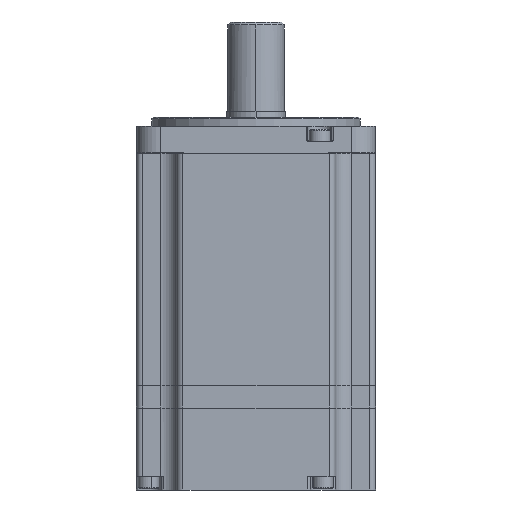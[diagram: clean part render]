
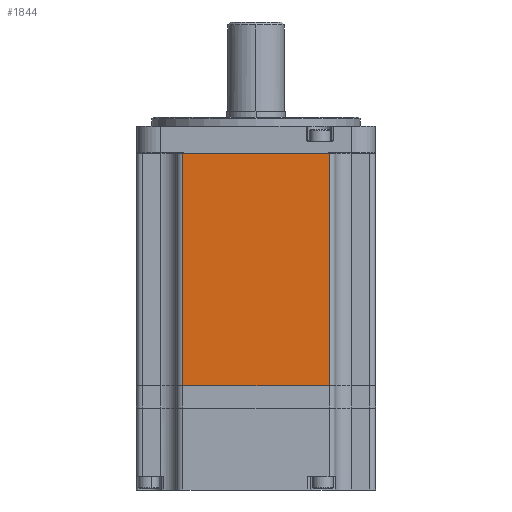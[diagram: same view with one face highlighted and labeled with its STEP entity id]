
A CAD part, front view. The second image highlights one B-rep face of the part: STEP entity #1844.
In plain terms, the highlighted planar face has unit normal (0, -1, 0).
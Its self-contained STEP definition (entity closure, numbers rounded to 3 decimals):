
#580=DIRECTION('',(0.,0.,-1.));
#581=VECTOR('',#580,78.);
#582=CARTESIAN_POINT('',(24.5,-40.1,78.));
#583=LINE('',#582,#581);
#588=DIRECTION('',(-1.,0.,0.));
#589=VECTOR('',#588,49.);
#590=CARTESIAN_POINT('',(24.5,-40.1,0.));
#591=LINE('',#590,#589);
#592=DIRECTION('',(1.,0.,0.));
#593=VECTOR('',#592,49.);
#594=CARTESIAN_POINT('',(-24.5,-40.1,78.));
#595=LINE('',#594,#593);
#596=DIRECTION('',(0.,0.,1.));
#597=VECTOR('',#596,78.);
#598=CARTESIAN_POINT('',(-24.5,-40.1,0.));
#599=LINE('',#598,#597);
#1156=CARTESIAN_POINT('',(-24.5,-40.1,78.));
#1157=VERTEX_POINT('',#1156);
#1158=CARTESIAN_POINT('',(24.5,-40.1,78.));
#1159=VERTEX_POINT('',#1158);
#1226=CARTESIAN_POINT('',(24.5,-40.1,0.));
#1227=VERTEX_POINT('',#1226);
#1228=CARTESIAN_POINT('',(-24.5,-40.1,0.));
#1229=VERTEX_POINT('',#1228);
#1832=CARTESIAN_POINT('',(0.,-40.1,39.));
#1833=DIRECTION('',(0.,1.,0.));
#1834=DIRECTION('',(0.,0.,1.));
#1835=AXIS2_PLACEMENT_3D('',#1832,#1833,#1834);
#1836=PLANE('',#1835);
#1837=ORIENTED_EDGE('',*,*,#1825,.T.);
#1838=ORIENTED_EDGE('',*,*,#1393,.T.);
#1840=ORIENTED_EDGE('',*,*,#1839,.T.);
#1841=ORIENTED_EDGE('',*,*,#1543,.T.);
#1842=EDGE_LOOP('',(#1837,#1838,#1840,#1841));
#1843=FACE_OUTER_BOUND('',#1842,.F.);
#1844=ADVANCED_FACE('',(#1843),#1836,.F.);
#1393=EDGE_CURVE('',#1227,#1229,#591,.T.);
#1543=EDGE_CURVE('',#1157,#1159,#595,.T.);
#1825=EDGE_CURVE('',#1159,#1227,#583,.T.);
#1839=EDGE_CURVE('',#1229,#1157,#599,.T.);
